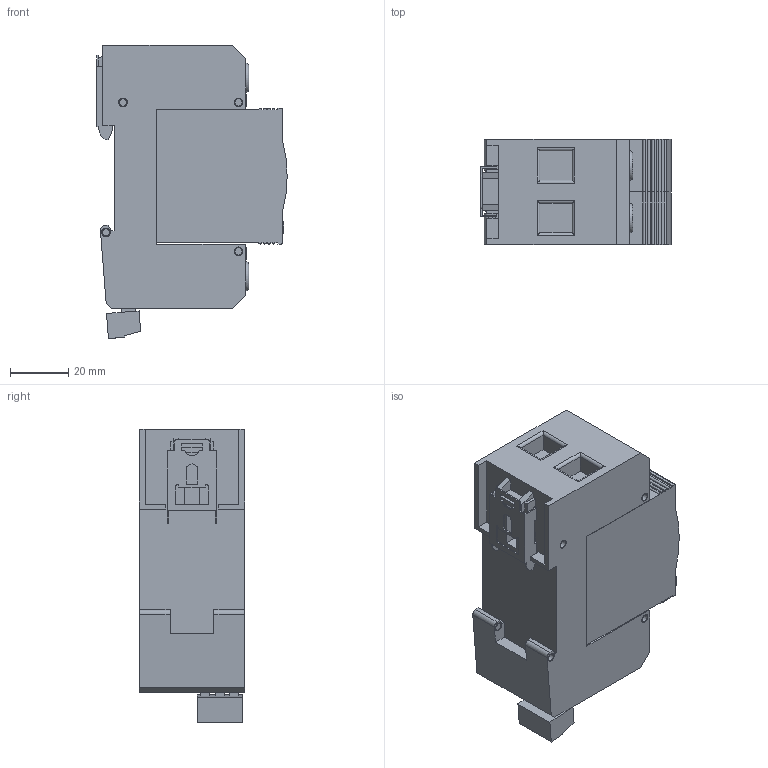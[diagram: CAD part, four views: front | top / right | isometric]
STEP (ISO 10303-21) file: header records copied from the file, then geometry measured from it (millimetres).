
FILE_DESCRIPTION(('TFLEX Exchange Step'),'2;1');
FILE_NAME('X2\041004400442\X0\.122.101.stp', '2022-08-30T14:04:20+03:00',('Ivan Berdigulov'),('Unknown organisation'),'TFLEX Exchange 2019.2','T-FLEX CAD','Unknown authorisation');
FILE_SCHEMA( ('AUTOMOTIVE_DESIGN { 1 0 10303 214 1 1 1 1 }') );
Length unit declared in the file: millimetre
Products named in the file (2): 0
Assembly tree (1 placements, depth 2):
  0
    0
Bounding box: 65.19 x 36 x 100.34 mm (x, y, z)
Volume: 169671.5 mm3; surface area: 39887.2 mm2
Topology: 27 solids, 27 shells, 462 faces, 1218 edges, 832 vertices
Faces by surface type: plane 319, cylinder 106, bspline 28, torus 6, cone 3
Full cylindrical faces by diameter (mm): 1.6 x3, 2.5 x13, 3 x16, 4 x3
Entity records: 14902 total; most frequent: CARTESIAN_POINT 3379, ORIENTED_EDGE 2372, DIRECTION 2227, EDGE_CURVE 1186, VERTEX_POINT 832, VECTOR 821, LINE 821, AXIS2_PLACEMENT_3D 703
